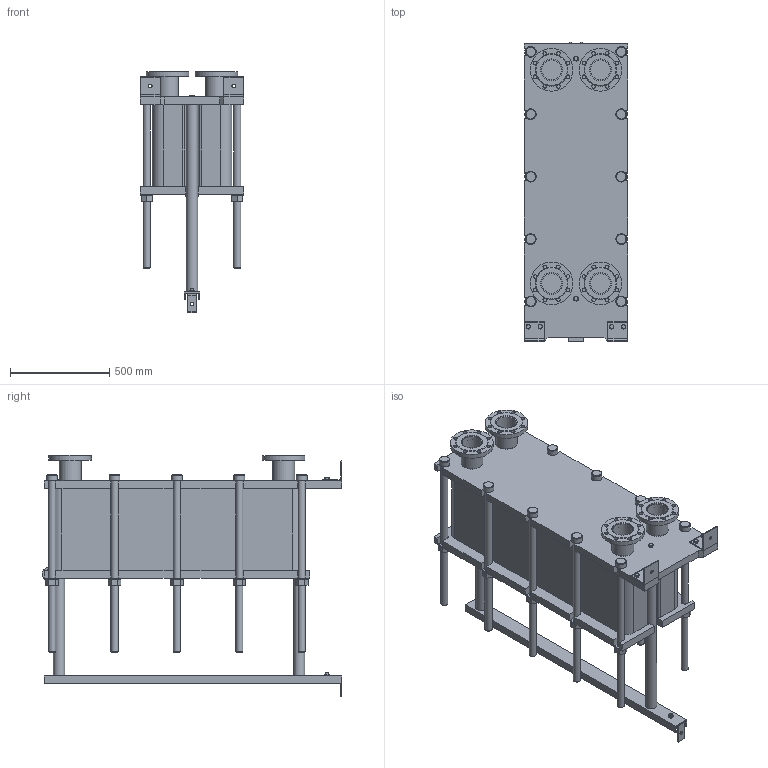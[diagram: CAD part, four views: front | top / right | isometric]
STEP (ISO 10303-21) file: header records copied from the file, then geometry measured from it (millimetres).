
FILE_DESCRIPTION(/* description */ (''),/* implementation_level */ '2;1');
FILE_NAME(/* name */ 'C:\Users\zhuro\Desktop\ENCO\TO\ЭН-04\ЭН-0,5-04-119-1.stp',/* time_stamp */ '2022-06-06T10:55:59+03:00',/* author */ ('zhuro'),/* organization */ (''),/* preprocessor_version */ 'ST-DEVELOPER v18.1',/* originating_system */ 'Autodesk Inventor 2022',/* authorisation */ '');
FILE_SCHEMA (('AUTOMOTIVE_DESIGN { 1 0 10303 214 3 1 1 }'));
Length unit declared in the file: millimetre
Products named in the file (1): ЭН-0,5-04-119-1
Bounding box: 520 x 1510 x 1219.5 mm (x, y, z)
Volume: 277403502.9 mm3; surface area: 8773073.7 mm2
Topology: 45 solids, 45 shells, 668 faces, 1611 edges, 1048 vertices
Faces by surface type: plane 457, cylinder 166, cone 39, torus 6
Full cylindrical faces by diameter (mm): 8 x4, 10 x2, 16 x8, 18 x35, 36 x25, 40 x2, 42 x1, 45 x4, 54 x10, 57 x2, 60 x10, 68 x2, 100 x4, 110 x8, 215 x4
Entity records: 23607 total; most frequent: CARTESIAN_POINT 7348, DIRECTION 3371, ORIENTED_EDGE 3142, EDGE_CURVE 1571, AXIS2_PLACEMENT_3D 1199, VERTEX_POINT 1044, LINE 973, VECTOR 973
